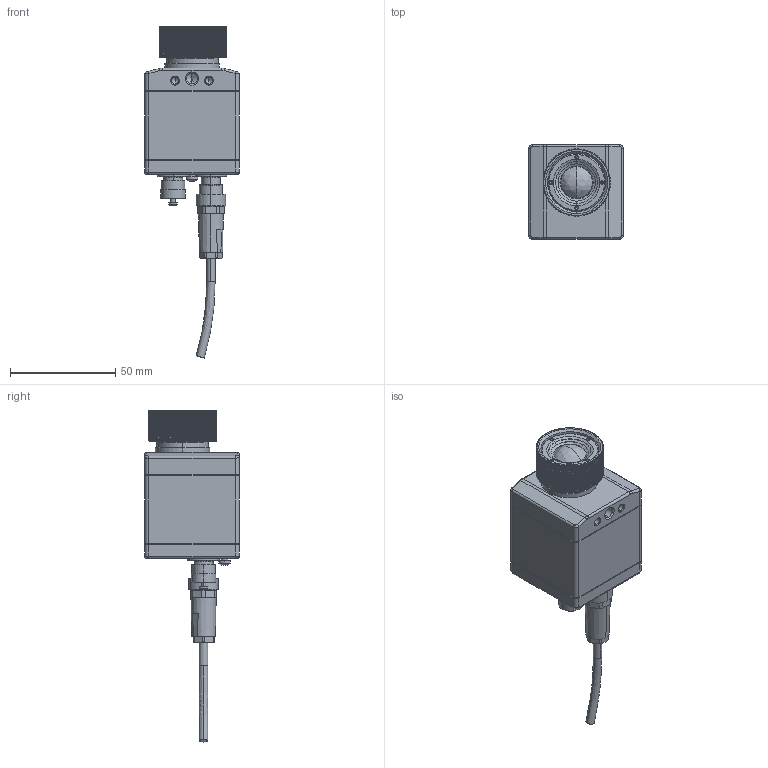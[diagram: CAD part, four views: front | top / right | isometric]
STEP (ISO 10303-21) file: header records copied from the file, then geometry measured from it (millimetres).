
FILE_DESCRIPTION (( 'STEP AP214' ), '1' );
FILE_NAME ('9P440-X PI-4xxi-Hülle+Optik.STEP', '2019-09-16T12:13:33', ( 'admin' ), ( '' ), 'SwSTEP 2.0', 'SolidWorks 2017', '' );
FILE_SCHEMA (( 'AUTOMOTIVE_DESIGN' ));
Length unit declared in the file: metre
Products named in the file (22): 63023 O-Ring 23x1_O-Ring 23 x 1; 1P076 Schraubring-72G; 1P005 Hülsenmutter; 1P102 Vierkantrohr-PI2_1P102-1; 9P115-X Chassis PI-2S; 9P112 Flaggruppe; 1P110 Objektivhaltering; 1P020-5 Gewindestange M2,5 x 40; 1P101 Frontplatte-PI2S; 9P119-X Rückwand PI-2S; 51099 Schutzkappe-712 FS; 61301 Linsenschraube DIN 7985 VZ M3x5_Linsenschraube KS DIN 7985 VZ M3x5; Flanschstecker-09-0415-00-05; Kabeldose-99-0410-10-04; Flanschstecker-09-0411-00-04; 9P072 Objektivgruppe-72G; 1P023 Heckplatte-steckbar; 1P077 Objektivtubus-72G; 1PL71 Linse1-72G; 9P440-X PI-4xxi-Hülle+Optik; 63015 O-Ring 15x1; 63026 O-Ring 26x1_O-Ring 20 x 1
Assembly tree (27 placements, depth 4):
  9P440-X PI-4xxi-Hülle+Optik
    9P119-X Rückwand PI-2S
      1P023 Heckplatte-steckbar
      Flanschstecker-09-0411-00-04
      Kabeldose-99-0410-10-04
      Flanschstecker-09-0415-00-05
      61301 Linsenschraube DIN 7985 VZ M3x5_Linsenschraube KS DIN 7985 VZ M3x5
      51099 Schutzkappe-712 FS
    9P115-X Chassis PI-2S
      1P101 Frontplatte-PI2S
      1P020-5 Gewindestange M2,5 x 40  x4
      9P112 Flaggruppe
        1P110 Objektivhaltering
    1P102 Vierkantrohr-PI2_1P102-1
    1P005 Hülsenmutter  x4
    9P072 Objektivgruppe-72G
      1P076 Schraubring-72G
      63023 O-Ring 23x1_O-Ring 23 x 1
      63026 O-Ring 26x1_O-Ring 20 x 1
      63015 O-Ring 15x1
      1PL71 Linse1-72G
      1P077 Objektivtubus-72G
Bounding box: 45 x 45 x 157.82 mm (x, y, z)
Volume: 49395.9 mm3; surface area: 50584.1 mm2
Topology: 22 solids, 30 shells, 1934 faces, 4975 edges, 3162 vertices
Faces by surface type: cylinder 818, plane 495, cone 466, bspline 111, sphere 44
Entity records: 88909 total; most frequent: CARTESIAN_POINT 25453, ORIENTED_EDGE 9130, DIRECTION 8894, EDGE_CURVE 4571, AXIS2_PLACEMENT_3D 3494, VERTEX_POINT 2926, EDGE_LOOP 1939, LINE 1906
